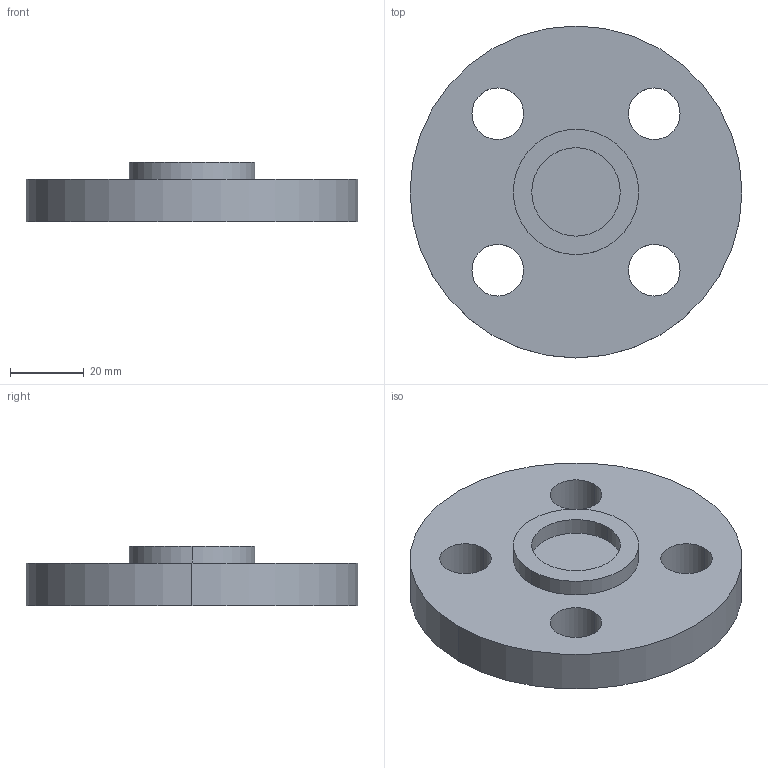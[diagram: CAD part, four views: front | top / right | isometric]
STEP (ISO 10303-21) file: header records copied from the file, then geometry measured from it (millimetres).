
FILE_DESCRIPTION (( 'STEP AP214' ), '1' );
FILE_NAME ('PN40 DN10 Type 05 - Type C Face.STEP', '2018-12-29T05:15:08', ( '' ), ( '' ), 'SwSTEP 2.0', 'SolidWorks 2019', '' );
FILE_SCHEMA (( 'AUTOMOTIVE_DESIGN' ));
Length unit declared in the file: millimetre
Products named in the file (1): PN40 DN10 Type 05 - Type C Face
Bounding box: 90 x 90 x 16 mm (x, y, z)
Volume: 68128.6 mm3; surface area: 17586.6 mm2
Topology: 1 solids, 1 shells, 18 faces, 42 edges, 28 vertices
Faces by surface type: cylinder 14, plane 4
Entity records: 584 total; most frequent: DIRECTION 108, CARTESIAN_POINT 89, ORIENTED_EDGE 84, AXIS2_PLACEMENT_3D 47, EDGE_CURVE 42, CIRCLE 28, VERTEX_POINT 28, EDGE_LOOP 28
